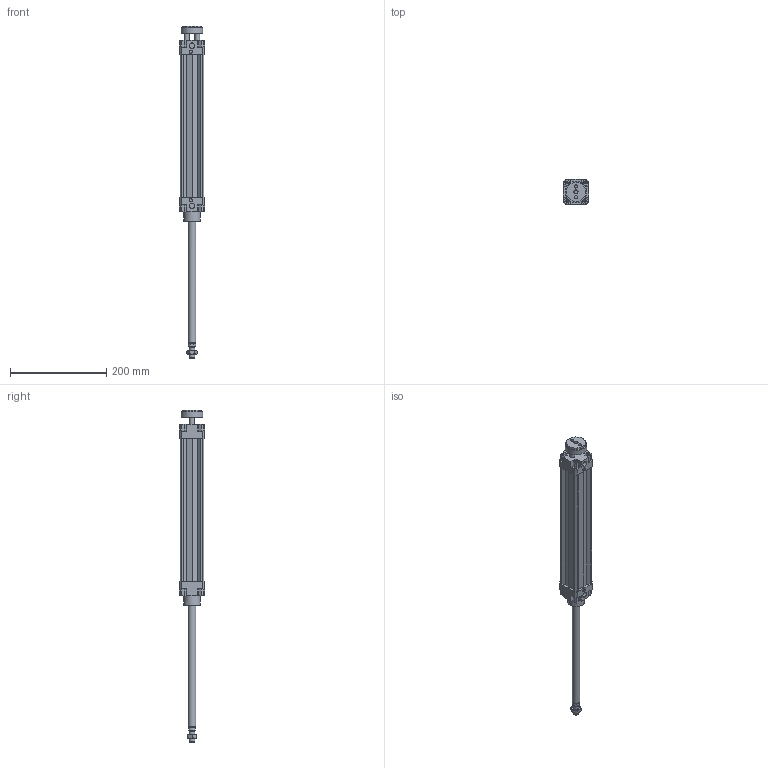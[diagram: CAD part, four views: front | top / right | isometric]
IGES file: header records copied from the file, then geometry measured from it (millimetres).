
Global section: file name: 132#_040_0250_02; native system: Autodesk Inventor 2014; preprocessor: unknown; author: A. Manieri; date: 20161006.154858; units: millimetre
Bounding box: 52 x 52 x 689 mm (x, y, z)
Volume: 544749 mm3; surface area: 182717.2 mm2
Topology: 3 solids, 3 shells, 220 faces, 590 edges, 398 vertices
Faces by surface type: bspline 220
